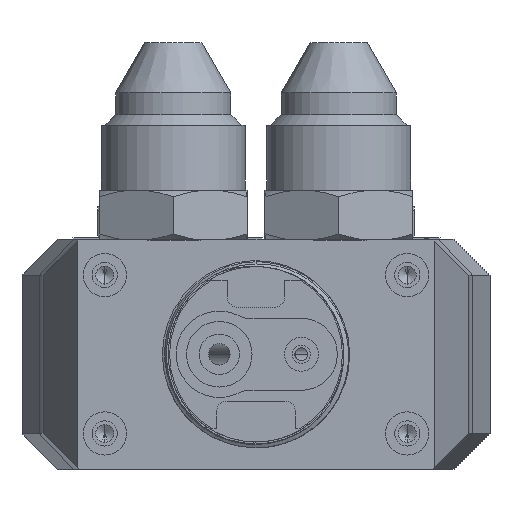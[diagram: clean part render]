
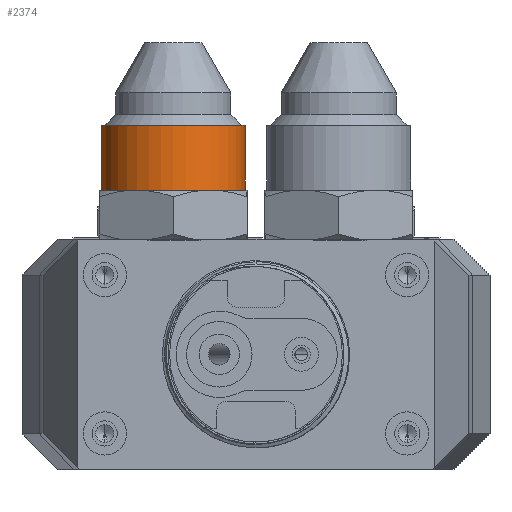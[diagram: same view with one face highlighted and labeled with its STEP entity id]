
A CAD part, front view. The second image highlights one B-rep face of the part: STEP entity #2374.
In plain terms, the highlighted cylindrical face has radius 10 mm (diameter 20 mm), a partial arc.
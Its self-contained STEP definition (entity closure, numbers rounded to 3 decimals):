
#63 = CARTESIAN_POINT ( 'NONE',  ( -110.366, -146.433, 1021.303 ) ) ;
#922 = DIRECTION ( 'NONE',  ( 0., 0., -1. ) ) ;
#1220 = DIRECTION ( 'NONE',  ( 1., 0., 0. ) ) ;
#1739 = VERTEX_POINT ( 'NONE', #51411 ) ;
#2374 = ADVANCED_FACE ( 'NONE', ( #27893 ), #8793, .T. ) ;
#4758 = VERTEX_POINT ( 'NONE', #63 ) ;
#4761 = VECTOR ( 'NONE', #50801, 1000. ) ;
#5115 = AXIS2_PLACEMENT_3D ( 'NONE', #49337, #20498, #11974 ) ;
#5601 = AXIS2_PLACEMENT_3D ( 'NONE', #24022, #922, #1220 ) ;
#8031 = CIRCLE ( 'NONE', #5115, 10. ) ;
#8544 = CIRCLE ( 'NONE', #5601, 10. ) ;
#8670 = ORIENTED_EDGE ( 'NONE', *, *, #30606, .T. ) ;
#8793 = CYLINDRICAL_SURFACE ( 'NONE', #10227, 10. ) ;
#10227 = AXIS2_PLACEMENT_3D ( 'NONE', #41588, #22733, #27589 ) ;
#11974 = DIRECTION ( 'NONE',  ( 1., 0., 0. ) ) ;
#17098 = CARTESIAN_POINT ( 'NONE',  ( -110.366, -146.433, 1052.575 ) ) ;
#20498 = DIRECTION ( 'NONE',  ( 0., 0., 1. ) ) ;
#22271 = LINE ( 'NONE', #17098, #4761 ) ;
#22733 = DIRECTION ( 'NONE',  ( 0., 0., 1. ) ) ;
#23111 = VERTEX_POINT ( 'NONE', #25137 ) ;
#24022 = CARTESIAN_POINT ( 'NONE',  ( -100.366, -146.433, 1030.303 ) ) ;
#25137 = CARTESIAN_POINT ( 'NONE',  ( -110.366, -146.433, 1030.303 ) ) ;
#27589 = DIRECTION ( 'NONE',  ( 1., 0., 0. ) ) ;
#27893 = FACE_OUTER_BOUND ( 'NONE', #43332, .T. ) ;
#28679 = DIRECTION ( 'NONE',  ( 0., 0., 1. ) ) ;
#30606 = EDGE_CURVE ( 'NONE', #57095, #23111, #8544, .T. ) ;
#34321 = ORIENTED_EDGE ( 'NONE', *, *, #44612, .F. ) ;
#38758 = EDGE_CURVE ( 'NONE', #1739, #57095, #57226, .T. ) ;
#41473 = ORIENTED_EDGE ( 'NONE', *, *, #38758, .T. ) ;
#41588 = CARTESIAN_POINT ( 'NONE',  ( -100.366, -146.433, 1052.575 ) ) ;
#42357 = CARTESIAN_POINT ( 'NONE',  ( -90.366, -146.433, 1052.575 ) ) ;
#43332 = EDGE_LOOP ( 'NONE', ( #34321, #44149, #41473, #8670 ) ) ;
#44149 = ORIENTED_EDGE ( 'NONE', *, *, #59431, .T. ) ;
#44612 = EDGE_CURVE ( 'NONE', #4758, #23111, #22271, .T. ) ;
#48656 = VECTOR ( 'NONE', #28679, 1000. ) ;
#49337 = CARTESIAN_POINT ( 'NONE',  ( -100.366, -146.433, 1021.303 ) ) ;
#49694 = CARTESIAN_POINT ( 'NONE',  ( -90.366, -146.433, 1030.303 ) ) ;
#50801 = DIRECTION ( 'NONE',  ( 0., 0., 1. ) ) ;
#51411 = CARTESIAN_POINT ( 'NONE',  ( -90.366, -146.433, 1021.303 ) ) ;
#57095 = VERTEX_POINT ( 'NONE', #49694 ) ;
#57226 = LINE ( 'NONE', #42357, #48656 ) ;
#59431 = EDGE_CURVE ( 'NONE', #4758, #1739, #8031, .T. ) ;
